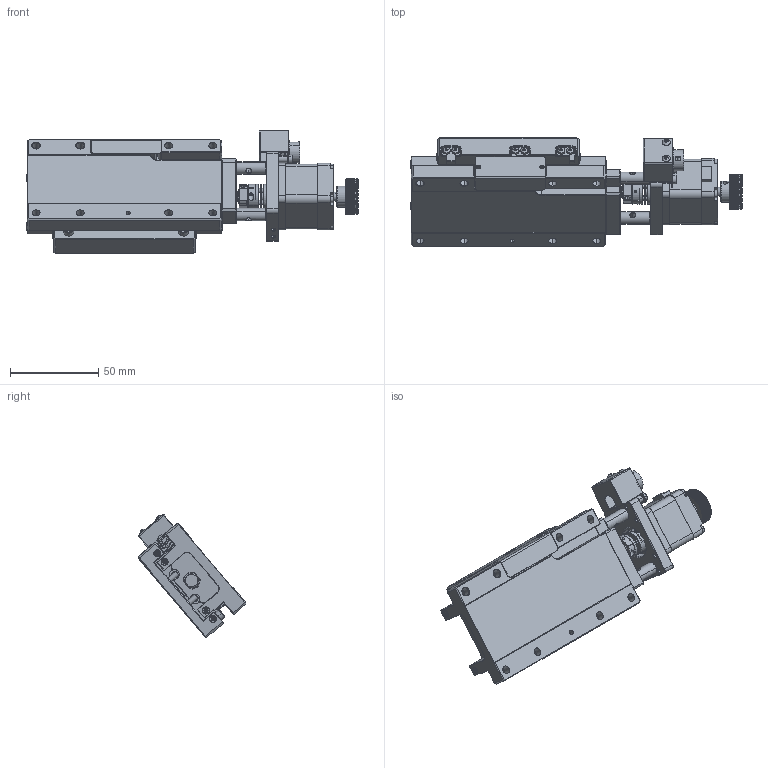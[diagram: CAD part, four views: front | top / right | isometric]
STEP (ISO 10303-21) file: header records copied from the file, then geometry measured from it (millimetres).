
FILE_DESCRIPTION (( 'STEP AP214' ), '1' );
FILE_NAME ('TXS6050B-L1-M28L.STEP', '2025-01-03T09:13:29', ( '' ), ( '' ), 'SwSTEP 2.0', 'SolidWorks 2020', '' );
FILE_SCHEMA (( 'AUTOMOTIVE_DESIGN' ));
Length unit declared in the file: millimetre
Products named in the file (1): TXS6050B-L1-M28L
Bounding box: 187.9 x 61.09 x 69.47 mm (x, y, z)
Volume: 148473.8 mm3; surface area: 67224.3 mm2
Topology: 35 solids, 44 shells, 2921 faces, 7553 edges, 4742 vertices
Faces by surface type: plane 1392, cylinder 918, cone 453, bspline 126, torus 26, sphere 6
Entity records: 155013 total; most frequent: CARTESIAN_POINT 54396, ORIENTED_EDGE 14882, DIRECTION 13347, EDGE_CURVE 7441, AXIS2_PLACEMENT_3D 4785, VERTEX_POINT 4736, VECTOR 3777, LINE 3777
